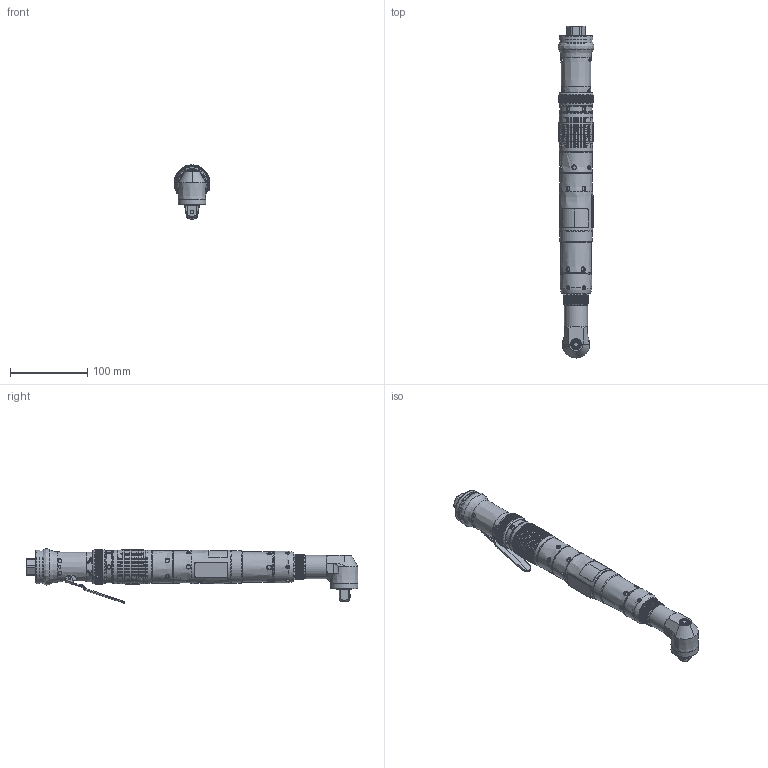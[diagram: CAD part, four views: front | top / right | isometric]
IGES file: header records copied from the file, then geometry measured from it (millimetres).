
Global section: file name: C:\Documents and Settings\rogupta\Desktop\siji2\16594939\16594939.igs; native system: Unigraphics Version X V2.0; preprocessor: Unigraphics NX IGES V2.0; date: 20070510.122718; units: inch
Bounding box: 46.21 x 429.34 x 70.45 mm (x, y, z)
Surface area: 81410.2 mm2 (no closed solid volume)
Topology: 0 solids, 0 shells, 1641 faces, 16029 edges, 15880 vertices
Faces by surface type: revolution 942, extrusion 674, bspline 25
